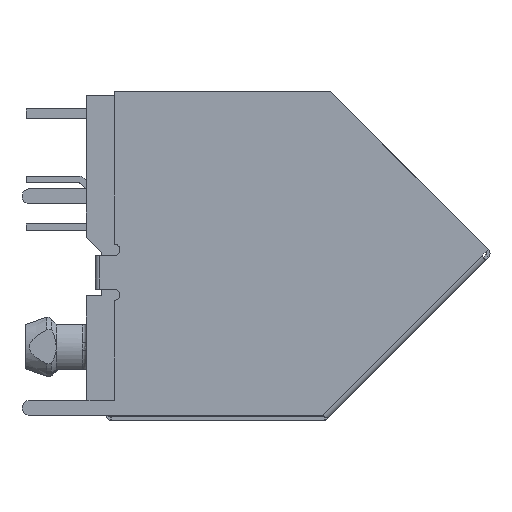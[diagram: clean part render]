
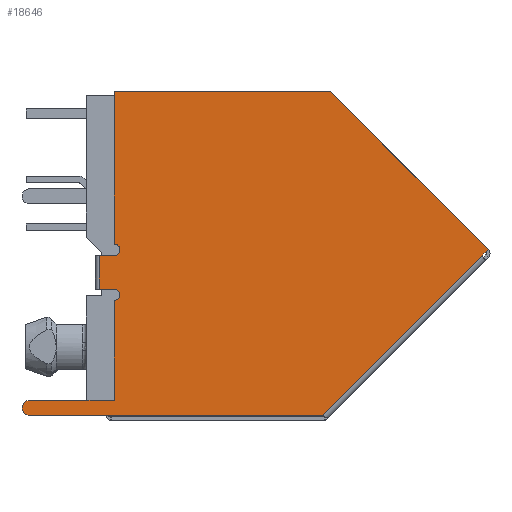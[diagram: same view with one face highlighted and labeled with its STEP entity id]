
A CAD part, front view. The second image highlights one B-rep face of the part: STEP entity #18646.
In plain terms, the highlighted planar face has unit normal (0, -1, 0).
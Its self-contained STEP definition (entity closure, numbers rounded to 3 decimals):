
#15570=CARTESIAN_POINT('',(12.564,0.05,
0.2));
#15679=DIRECTION('',(0.707,0.,0.707));
#15680=VECTOR('',#15679,11.961);
#15681=CARTESIAN_POINT('',(12.564,0.05,
0.2));
#15682=LINE('',#15681,#15680);
#15683=DIRECTION('',(1.,0.,0.));
#15684=VECTOR('',#15683,0.8);
#15685=CARTESIAN_POINT('',(0.685,0.05,
8.702));
#15686=LINE('',#15685,#15684);
#15687=CARTESIAN_POINT('',(1.485,0.05,
9.002));
#15688=DIRECTION('',(0.,-1.,0.));
#15689=DIRECTION('',(0.,0.,-1.));
#15690=AXIS2_PLACEMENT_3D('',#15687,#15688,#15689);
#15692=DIRECTION('',(0.,0.,1.));
#15693=VECTOR('',#15692,8.1);
#15694=CARTESIAN_POINT('',(1.485,0.05,
9.302));
#15695=LINE('',#15694,#15693);
#15696=DIRECTION('',(1.,0.,0.));
#15697=VECTOR('',#15696,11.5);
#15698=CARTESIAN_POINT('',(1.485,0.05,
17.402));
#15699=LINE('',#15698,#15697);
#15700=DIRECTION('',(-0.707,0.,
-0.707));
#15701=VECTOR('',#15700,0.5);
#15702=CARTESIAN_POINT('',(21.373,0.05,
9.014));
#15703=LINE('',#15702,#15701);
#15704=DIRECTION('',(-1.,0.,0.));
#15705=VECTOR('',#15704,15.579);
#15706=CARTESIAN_POINT('',(12.564,0.05,
0.2));
#15707=LINE('',#15706,#15705);
#15708=CARTESIAN_POINT('',(-3.015,0.05,
0.6));
#15709=DIRECTION('',(0.,-1.,0.));
#15710=DIRECTION('',(0.,0.,1.));
#15711=AXIS2_PLACEMENT_3D('',#15708,#15709,#15710);
#15713=DIRECTION('',(1.,0.,0.));
#15714=VECTOR('',#15713,4.5);
#15715=CARTESIAN_POINT('',(-3.015,0.05,
1.));
#15716=LINE('',#15715,#15714);
#15717=DIRECTION('',(0.,0.,1.));
#15718=VECTOR('',#15717,5.302);
#15719=CARTESIAN_POINT('',(1.485,0.05,
1.));
#15720=LINE('',#15719,#15718);
#15721=CARTESIAN_POINT('',(1.485,0.05,
6.602));
#15722=DIRECTION('',(0.,-1.,0.));
#15723=DIRECTION('',(0.,0.,-1.));
#15724=AXIS2_PLACEMENT_3D('',#15721,#15722,#15723);
#15726=CARTESIAN_POINT('',(1.485,0.05,
6.602));
#15727=DIRECTION('',(0.,-1.,0.));
#15728=DIRECTION('',(0.707,0.,-0.707));
#15729=AXIS2_PLACEMENT_3D('',#15726,#15727,#15728);
#15731=DIRECTION('',(-1.,0.,0.));
#15732=VECTOR('',#15731,0.8);
#15733=CARTESIAN_POINT('',(1.485,0.05,
6.902));
#15734=LINE('',#15733,#15732);
#15735=DIRECTION('',(0.,0.,1.));
#15736=VECTOR('',#15735,1.8);
#15737=CARTESIAN_POINT('',(0.685,0.05,
6.902));
#15738=LINE('',#15737,#15736);
#15911=DIRECTION('',(-0.707,0.,0.707));
#15912=VECTOR('',#15911,11.862);
#15913=CARTESIAN_POINT('',(21.373,0.05,
9.014));
#15914=LINE('',#15913,#15912);
#17321=CARTESIAN_POINT('',(0.685,0.05,
8.702));
#17322=VERTEX_POINT('',#17321);
#17323=CARTESIAN_POINT('',(1.485,0.05,
8.702));
#17324=VERTEX_POINT('',#17323);
#17325=CARTESIAN_POINT('',(1.485,0.05,
9.302));
#17326=VERTEX_POINT('',#17325);
#17327=CARTESIAN_POINT('',(1.485,0.05,
17.402));
#17328=VERTEX_POINT('',#17327);
#17329=CARTESIAN_POINT('',(12.985,0.05,
17.402));
#17330=VERTEX_POINT('',#17329);
#17331=CARTESIAN_POINT('',(21.373,0.05,
9.014));
#17332=VERTEX_POINT('',#17331);
#17333=CARTESIAN_POINT('',(21.019,0.05,
8.661));
#17334=VERTEX_POINT('',#17333);
#17335=CARTESIAN_POINT('',(1.485,0.05,
6.302));
#17336=CARTESIAN_POINT('',(1.697,0.05,
6.39));
#17337=VERTEX_POINT('',#17335);
#17338=VERTEX_POINT('',#17336);
#17339=CARTESIAN_POINT('',(1.485,0.05,
6.902));
#17340=VERTEX_POINT('',#17339);
#17341=CARTESIAN_POINT('',(0.685,0.05,
6.902));
#17342=VERTEX_POINT('',#17341);
#17439=CARTESIAN_POINT('',(-3.015,0.05,
1.));
#17440=CARTESIAN_POINT('',(-3.015,0.05,
0.2));
#17441=VERTEX_POINT('',#17439);
#17442=VERTEX_POINT('',#17440);
#17444=VERTEX_POINT('',#15570);
#17449=CARTESIAN_POINT('',(1.485,0.05,
1.));
#17450=VERTEX_POINT('',#17449);
#18611=CARTESIAN_POINT('',(1.485,0.05,
0.202));
#18612=DIRECTION('',(0.,1.,0.));
#18613=DIRECTION('',(-0.707,0.,0.707));
#18614=AXIS2_PLACEMENT_3D('',#18611,#18612,#18613);
#18615=PLANE('',#18614);
#18617=ORIENTED_EDGE('',*,*,#18616,.T.);
#18619=ORIENTED_EDGE('',*,*,#18618,.T.);
#18621=ORIENTED_EDGE('',*,*,#18620,.T.);
#18623=ORIENTED_EDGE('',*,*,#18622,.T.);
#18625=ORIENTED_EDGE('',*,*,#18624,.F.);
#18627=ORIENTED_EDGE('',*,*,#18626,.T.);
#18628=ORIENTED_EDGE('',*,*,#18605,.F.);
#18629=ORIENTED_EDGE('',*,*,#18493,.T.);
#18631=ORIENTED_EDGE('',*,*,#18630,.F.);
#18633=ORIENTED_EDGE('',*,*,#18632,.T.);
#18635=ORIENTED_EDGE('',*,*,#18634,.T.);
#18637=ORIENTED_EDGE('',*,*,#18636,.T.);
#18639=ORIENTED_EDGE('',*,*,#18638,.T.);
#18641=ORIENTED_EDGE('',*,*,#18640,.T.);
#18643=ORIENTED_EDGE('',*,*,#18642,.T.);
#18644=EDGE_LOOP('',(#18617,#18619,#18621,#18623,#18625,#18627,#18628,#18629,
#18631,#18633,#18635,#18637,#18639,#18641,#18643));
#18645=FACE_OUTER_BOUND('',#18644,.F.);
#18646=ADVANCED_FACE('',(#18645),#18615,.F.);
#15691=CIRCLE('',#15690,0.3);
#15712=CIRCLE('',#15711,0.4);
#15725=CIRCLE('',#15724,0.3);
#15730=CIRCLE('',#15729,0.3);
#18493=EDGE_CURVE('',#17444,#17442,#15707,.T.);
#18605=EDGE_CURVE('',#17444,#17334,#15682,.T.);
#18616=EDGE_CURVE('',#17322,#17324,#15686,.T.);
#18618=EDGE_CURVE('',#17324,#17326,#15691,.T.);
#18620=EDGE_CURVE('',#17326,#17328,#15695,.T.);
#18622=EDGE_CURVE('',#17328,#17330,#15699,.T.);
#18624=EDGE_CURVE('',#17332,#17330,#15914,.T.);
#18626=EDGE_CURVE('',#17332,#17334,#15703,.T.);
#18630=EDGE_CURVE('',#17441,#17442,#15712,.T.);
#18632=EDGE_CURVE('',#17441,#17450,#15716,.T.);
#18634=EDGE_CURVE('',#17450,#17337,#15720,.T.);
#18636=EDGE_CURVE('',#17337,#17338,#15725,.T.);
#18638=EDGE_CURVE('',#17338,#17340,#15730,.T.);
#18640=EDGE_CURVE('',#17340,#17342,#15734,.T.);
#18642=EDGE_CURVE('',#17342,#17322,#15738,.T.);
